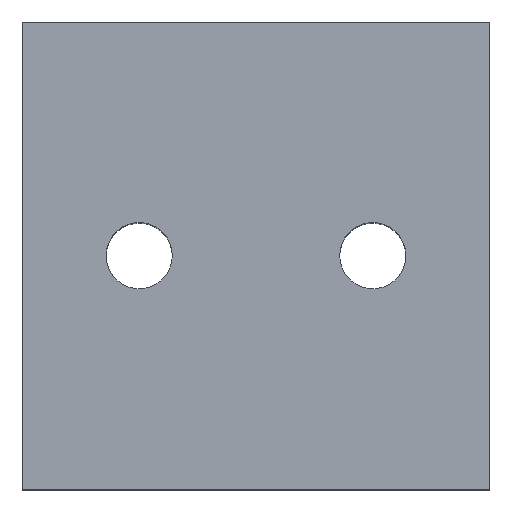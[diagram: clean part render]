
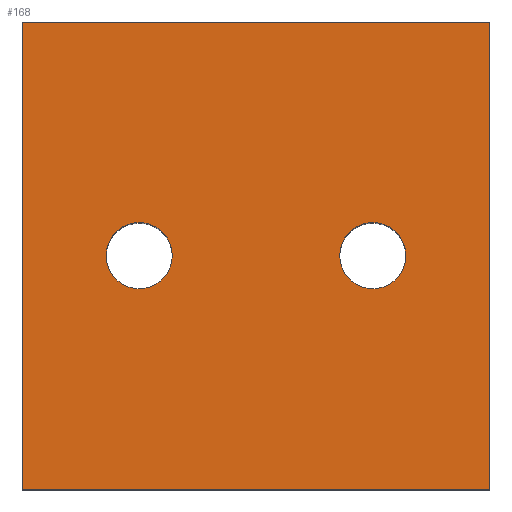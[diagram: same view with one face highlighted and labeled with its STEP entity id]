
A CAD part, top view. The second image highlights one B-rep face of the part: STEP entity #168.
In plain terms, the highlighted planar face has unit normal (0, 0, 1).
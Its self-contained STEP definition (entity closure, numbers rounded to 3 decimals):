
#10 = VECTOR ( 'NONE', #230, 1000. ) ;
#23 = CARTESIAN_POINT ( 'NONE',  ( 0., 0., 20. ) ) ;
#25 = LINE ( 'NONE', #287, #120 ) ;
#36 = CARTESIAN_POINT ( 'NONE',  ( 7.7, 0., 20. ) ) ;
#37 = LINE ( 'NONE', #552, #492 ) ;
#55 = FACE_OUTER_BOUND ( 'NONE', #78, .T. ) ;
#68 = DIRECTION ( 'NONE',  ( 0., 0., 1. ) ) ;
#75 = AXIS2_PLACEMENT_3D ( 'NONE', #338, #68, #237 ) ;
#78 = EDGE_LOOP ( 'NONE', ( #317, #264, #283, #112 ) ) ;
#91 = CARTESIAN_POINT ( 'NONE',  ( 12., -12., 20. ) ) ;
#92 = EDGE_CURVE ( 'NONE', #353, #654, #343, .T. ) ;
#110 = CIRCLE ( 'NONE', #75, 1.7 ) ;
#112 = ORIENTED_EDGE ( 'NONE', *, *, #640, .T. ) ;
#113 = EDGE_CURVE ( 'NONE', #194, #452, #330, .T. ) ;
#114 = DIRECTION ( 'NONE',  ( 0., 0., 1. ) ) ;
#120 = VECTOR ( 'NONE', #240, 1000. ) ;
#122 = VERTEX_POINT ( 'NONE', #574 ) ;
#127 = CARTESIAN_POINT ( 'NONE',  ( -6., 0., 20. ) ) ;
#154 = CARTESIAN_POINT ( 'NONE',  ( 4.3, 0., 20. ) ) ;
#168 = ADVANCED_FACE ( 'NONE', ( #55, #335, #633 ), #604, .F. ) ;
#174 = VERTEX_POINT ( 'NONE', #36 ) ;
#186 = DIRECTION ( 'NONE',  ( 1., 0., 0. ) ) ;
#193 = AXIS2_PLACEMENT_3D ( 'NONE', #415, #310, #674 ) ;
#194 = VERTEX_POINT ( 'NONE', #594 ) ;
#197 = DIRECTION ( 'NONE',  ( -1., 0., 0. ) ) ;
#204 = VECTOR ( 'NONE', #206, 1000. ) ;
#206 = DIRECTION ( 'NONE',  ( 0., 1., 0. ) ) ;
#222 = EDGE_CURVE ( 'NONE', #654, #353, #391, .T. ) ;
#230 = DIRECTION ( 'NONE',  ( 0., -1., 0. ) ) ;
#237 = DIRECTION ( 'NONE',  ( 1., 0., 0. ) ) ;
#240 = DIRECTION ( 'NONE',  ( -1., 0., 0. ) ) ;
#249 = AXIS2_PLACEMENT_3D ( 'NONE', #127, #392, #186 ) ;
#255 = DIRECTION ( 'NONE',  ( 1., 0., 0. ) ) ;
#264 = ORIENTED_EDGE ( 'NONE', *, *, #602, .T. ) ;
#274 = EDGE_LOOP ( 'NONE', ( #628, #491 ) ) ;
#283 = ORIENTED_EDGE ( 'NONE', *, *, #376, .T. ) ;
#286 = DIRECTION ( 'NONE',  ( 0., 0., -1. ) ) ;
#287 = CARTESIAN_POINT ( 'NONE',  ( -12., 12., 20. ) ) ;
#310 = DIRECTION ( 'NONE',  ( 0., 0., 1. ) ) ;
#317 = ORIENTED_EDGE ( 'NONE', *, *, #113, .T. ) ;
#329 = VERTEX_POINT ( 'NONE', #569 ) ;
#330 = LINE ( 'NONE', #532, #10 ) ;
#335 = FACE_BOUND ( 'NONE', #274, .T. ) ;
#338 = CARTESIAN_POINT ( 'NONE',  ( 6., 0., 20. ) ) ;
#343 = CIRCLE ( 'NONE', #512, 1.7 ) ;
#353 = VERTEX_POINT ( 'NONE', #618 ) ;
#356 = LINE ( 'NONE', #91, #204 ) ;
#376 = EDGE_CURVE ( 'NONE', #122, #329, #356, .T. ) ;
#383 = CARTESIAN_POINT ( 'NONE',  ( -6., 0., 20. ) ) ;
#388 = EDGE_CURVE ( 'NONE', #174, #398, #443, .T. ) ;
#391 = CIRCLE ( 'NONE', #249, 1.7 ) ;
#392 = DIRECTION ( 'NONE',  ( 0., 0., 1. ) ) ;
#398 = VERTEX_POINT ( 'NONE', #154 ) ;
#415 = CARTESIAN_POINT ( 'NONE',  ( 6., 0., 20. ) ) ;
#443 = CIRCLE ( 'NONE', #193, 1.7 ) ;
#452 = VERTEX_POINT ( 'NONE', #467 ) ;
#467 = CARTESIAN_POINT ( 'NONE',  ( -12., -12., 20. ) ) ;
#491 = ORIENTED_EDGE ( 'NONE', *, *, #92, .F. ) ;
#492 = VECTOR ( 'NONE', #255, 1000. ) ;
#512 = AXIS2_PLACEMENT_3D ( 'NONE', #383, #114, #536 ) ;
#523 = EDGE_LOOP ( 'NONE', ( #642, #624 ) ) ;
#532 = CARTESIAN_POINT ( 'NONE',  ( -12., -12., 20. ) ) ;
#536 = DIRECTION ( 'NONE',  ( 1., 0., 0. ) ) ;
#552 = CARTESIAN_POINT ( 'NONE',  ( -12., -12., 20. ) ) ;
#569 = CARTESIAN_POINT ( 'NONE',  ( 12., 12., 20. ) ) ;
#574 = CARTESIAN_POINT ( 'NONE',  ( 12., -12., 20. ) ) ;
#594 = CARTESIAN_POINT ( 'NONE',  ( -12., 12., 20. ) ) ;
#595 = CARTESIAN_POINT ( 'NONE',  ( -7.7, 0., 20. ) ) ;
#602 = EDGE_CURVE ( 'NONE', #452, #122, #37, .T. ) ;
#604 = PLANE ( 'NONE',  #669 ) ;
#618 = CARTESIAN_POINT ( 'NONE',  ( -4.3, 0., 20. ) ) ;
#624 = ORIENTED_EDGE ( 'NONE', *, *, #388, .F. ) ;
#628 = ORIENTED_EDGE ( 'NONE', *, *, #222, .F. ) ;
#633 = FACE_BOUND ( 'NONE', #523, .T. ) ;
#634 = EDGE_CURVE ( 'NONE', #398, #174, #110, .T. ) ;
#640 = EDGE_CURVE ( 'NONE', #329, #194, #25, .T. ) ;
#642 = ORIENTED_EDGE ( 'NONE', *, *, #634, .F. ) ;
#654 = VERTEX_POINT ( 'NONE', #595 ) ;
#669 = AXIS2_PLACEMENT_3D ( 'NONE', #23, #286, #197 ) ;
#674 = DIRECTION ( 'NONE',  ( 1., 0., 0. ) ) ;
